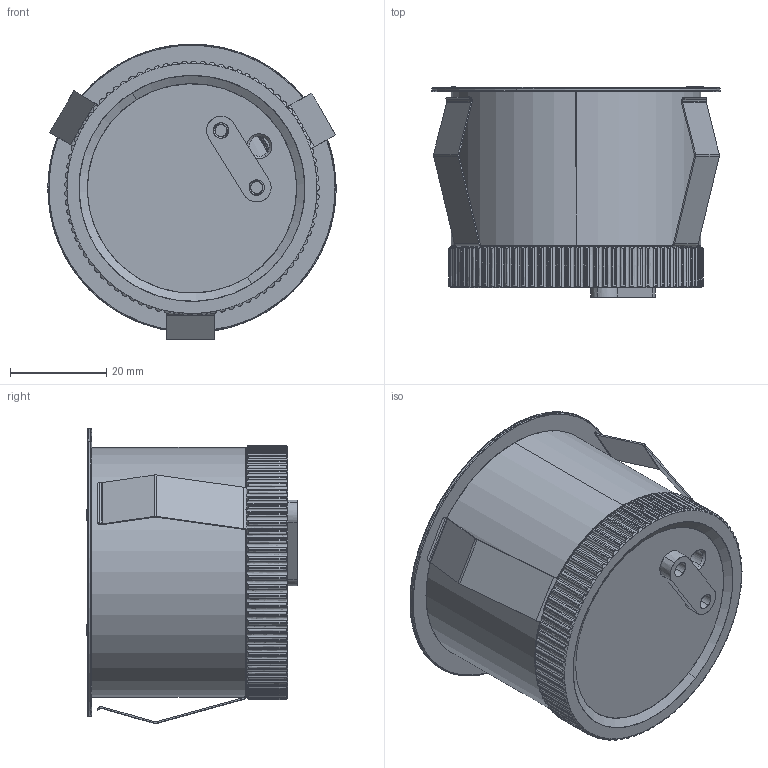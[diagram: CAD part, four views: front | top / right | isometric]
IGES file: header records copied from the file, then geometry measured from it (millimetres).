
Start section: SolidWorks IGES file using analytic representation for surfaces
Global section: file name: \\ARNOLD\compartida\Nueva Coleccion Septiembre 2026\ARQUITECTURAL\SEITY_informacion\SEITY_imagenes y 3d\Required documents_0706\3D STEP file - downlights\FLYB T0333\102015-55.STEP.IGS; native system: SolidWorks 2023; preprocessor: SolidWorks 2023; author: adrian; date: 260828.100357; units: millimetre
Bounding box: 60 x 43.8 x 61.5 mm (x, y, z)
Surface area: 39603.2 mm2 (no closed solid volume)
Topology: 0 solids, 0 shells, 1141 faces, 13480 edges, 13461 vertices
Faces by surface type: revolution 831, bspline 310
